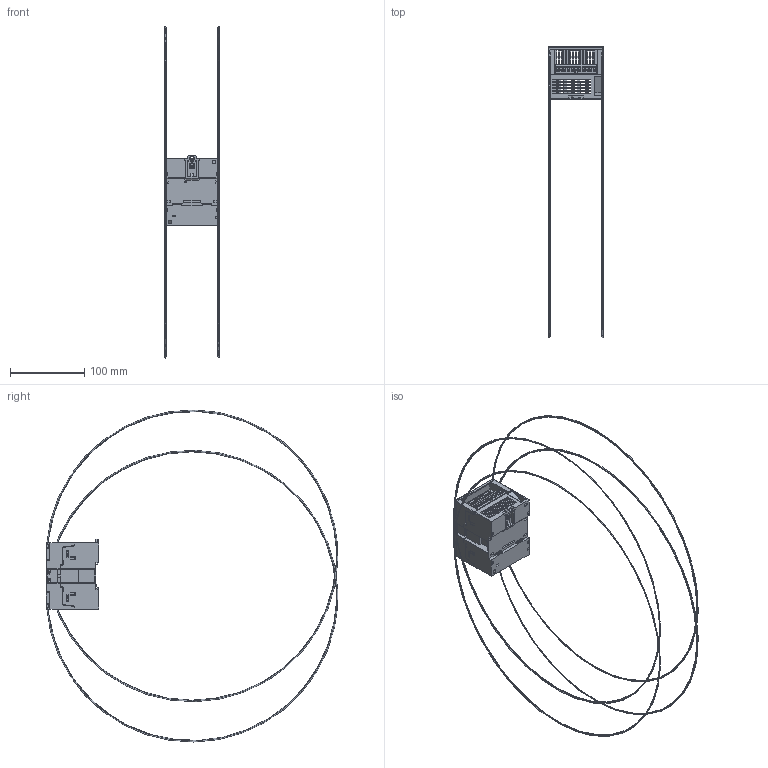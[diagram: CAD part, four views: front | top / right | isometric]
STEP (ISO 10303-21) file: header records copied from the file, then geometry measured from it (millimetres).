
FILE_DESCRIPTION((''),'2;1');
FILE_NAME('EXP_MODULE-2','2023-05-25T14:20:10',('Cyclone_Aero15X'),(''),'CREO PARAMETRIC BY PTC INC, 2019080','CREO PARAMETRIC BY PTC INC, 2019080','');
FILE_SCHEMA(('CONFIG_CONTROL_DESIGN'));
Products named in the file (1): EXP_MODULE-2
Bounding box: 73 x 392.38 x 446.67 mm (x, y, z)
Surface area: 137921.5 mm2 (no closed solid volume)
Topology: 0 solids, 0 shells, 2232 faces, 12972 edges, 12918 vertices
Faces by surface type: plane 1556, cylinder 576, torus 42, bspline 32, sphere 12, extrusion 12, cone 2
Entity records: 200267 total; most frequent: CARTESIAN_POINT 49325, DIRECTION 28896, TRIMMED_CURVE 23096, VECTOR 21696, LINE 21684, DEFINITIONAL_REPRESENTATION 12876, PCURVE 12876, COMPOSITE_CURVE_SEGMENT 12876
